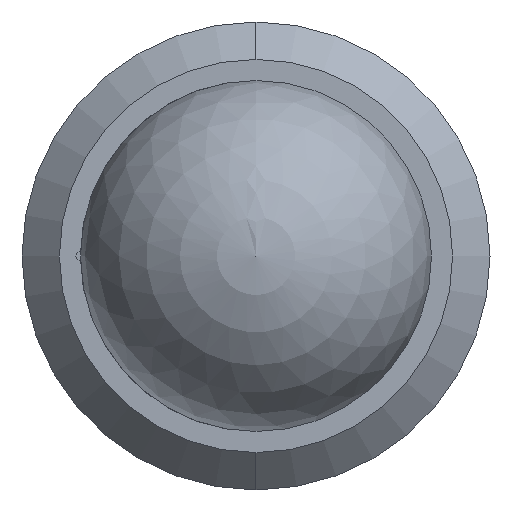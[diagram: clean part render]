
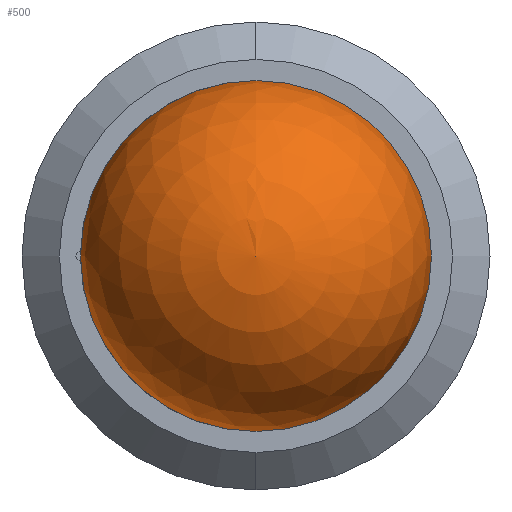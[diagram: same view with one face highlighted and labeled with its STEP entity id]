
A CAD part, left-side view. The second image highlights one B-rep face of the part: STEP entity #500.
In plain terms, the highlighted spherical face has radius 2.381 mm.
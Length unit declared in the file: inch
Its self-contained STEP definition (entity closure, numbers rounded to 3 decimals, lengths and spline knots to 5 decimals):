
#6 = CIRCLE ( 'NONE', #688, 0.09375 ) ;
#22 = EDGE_LOOP ( 'NONE', ( #574, #459 ) ) ;
#54 = EDGE_CURVE ( 'NONE', #485, #538, #6, .T. ) ;
#60 = CARTESIAN_POINT ( 'NONE',  ( 0., 0.09375, 0. ) ) ;
#99 = CARTESIAN_POINT ( 'NONE',  ( 0., 0., 0. ) ) ;
#125 = CARTESIAN_POINT ( 'NONE',  ( 0., -0.09375, 0. ) ) ;
#177 = DIRECTION ( 'NONE',  ( -1., 0., 0. ) ) ;
#259 = DIRECTION ( 'NONE',  ( -1., 0., 0. ) ) ;
#274 = DIRECTION ( 'NONE',  ( 0., 0., -1. ) ) ;
#293 = FACE_OUTER_BOUND ( 'NONE', #22, .T. ) ;
#315 = AXIS2_PLACEMENT_3D ( 'NONE', #599, #259, #658 ) ;
#396 = AXIS2_PLACEMENT_3D ( 'NONE', #528, #177, #765 ) ;
#421 = SPHERICAL_SURFACE ( 'NONE', #396, 0.09375 ) ;
#457 = DIRECTION ( 'NONE',  ( 1., 0., 0. ) ) ;
#459 = ORIENTED_EDGE ( 'NONE', *, *, #711, .T. ) ;
#485 = VERTEX_POINT ( 'NONE', #60 ) ;
#500 = ADVANCED_FACE ( 'NONE', ( #293 ), #421, .T. ) ;
#528 = CARTESIAN_POINT ( 'NONE',  ( 0., 0., 0. ) ) ;
#538 = VERTEX_POINT ( 'NONE', #125 ) ;
#574 = ORIENTED_EDGE ( 'NONE', *, *, #54, .F. ) ;
#599 = CARTESIAN_POINT ( 'NONE',  ( 0., 0., 0. ) ) ;
#658 = DIRECTION ( 'NONE',  ( 0., 0., 1. ) ) ;
#688 = AXIS2_PLACEMENT_3D ( 'NONE', #99, #457, #274 ) ;
#711 = EDGE_CURVE ( 'NONE', #485, #538, #748, .T. ) ;
#748 = CIRCLE ( 'NONE', #315, 0.09375 ) ;
#765 = DIRECTION ( 'NONE',  ( 0., 0., 1. ) ) ;
